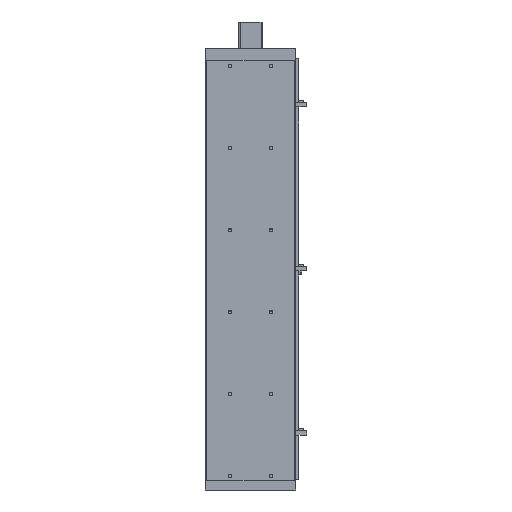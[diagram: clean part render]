
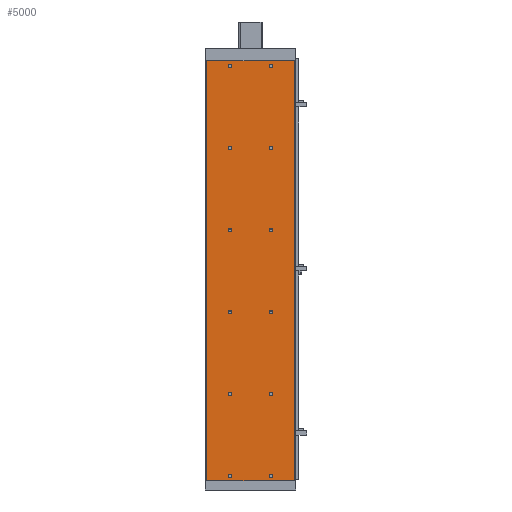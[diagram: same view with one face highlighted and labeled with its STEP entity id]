
A CAD part, front view. The second image highlights one B-rep face of the part: STEP entity #5000.
In plain terms, the highlighted planar face has unit normal (0, -1, 0).
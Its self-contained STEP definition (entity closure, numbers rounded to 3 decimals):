
#3162=CARTESIAN_POINT('',(-107.,0.0,1024.0));
#3163=VERTEX_POINT('',#3162);
#3170=CARTESIAN_POINT('',(107.,0.0,1024.0));
#3171=VERTEX_POINT('',#3170);
#3172=CARTESIAN_POINT('',(107.,0.0,1024.0));
#3173=DIRECTION('',(-1.0,0.0,0.0));
#3174=VECTOR('',#3173,214.);
#3175=LINE('',#3172,#3174);
#3176=EDGE_CURVE('',#3171,#3163,#3175,.T.);
#3506=CARTESIAN_POINT('',(107.,0.0,0.0));
#3507=VERTEX_POINT('',#3506);
#3514=CARTESIAN_POINT('',(-107.,0.0,0.0));
#3515=VERTEX_POINT('',#3514);
#3516=CARTESIAN_POINT('',(-107.,0.0,0.0));
#3517=DIRECTION('',(1.0,0.0,0.0));
#3518=VECTOR('',#3517,214.);
#3519=LINE('',#3516,#3518);
#3520=EDGE_CURVE('',#3515,#3507,#3519,.T.);
#3626=CARTESIAN_POINT('',(45.751,0.0,12.));
#3627=VERTEX_POINT('',#3626);
#3628=CARTESIAN_POINT('',(50.001,0.0,12.));
#3629=DIRECTION('',(0.0,1.0,0.0));
#3630=DIRECTION('',(1.0,0.0,0.0));
#3631=AXIS2_PLACEMENT_3D('',#3628,#3629,#3630);
#3632=CIRCLE('',#3631,4.25);
#3633=EDGE_CURVE('',#3627,#3627,#3632,.T.);
#3667=CARTESIAN_POINT('',(-54.249,0.0,12.));
#3668=VERTEX_POINT('',#3667);
#3669=CARTESIAN_POINT('',(-49.999,0.0,12.));
#3670=DIRECTION('',(0.0,1.0,0.0));
#3671=DIRECTION('',(1.0,0.0,0.0));
#3672=AXIS2_PLACEMENT_3D('',#3669,#3670,#3671);
#3673=CIRCLE('',#3672,4.25);
#3674=EDGE_CURVE('',#3668,#3668,#3673,.T.);
#3846=CARTESIAN_POINT('',(45.751,0.0,212.));
#3847=VERTEX_POINT('',#3846);
#3848=CARTESIAN_POINT('',(50.001,0.0,212.));
#3849=DIRECTION('',(0.0,1.0,0.0));
#3850=DIRECTION('',(1.0,0.0,0.0));
#3851=AXIS2_PLACEMENT_3D('',#3848,#3849,#3850);
#3852=CIRCLE('',#3851,4.25);
#3853=EDGE_CURVE('',#3847,#3847,#3852,.T.);
#3887=CARTESIAN_POINT('',(-54.249,0.0,212.));
#3888=VERTEX_POINT('',#3887);
#3889=CARTESIAN_POINT('',(-49.999,0.0,212.));
#3890=DIRECTION('',(0.0,1.0,0.0));
#3891=DIRECTION('',(1.0,0.0,0.0));
#3892=AXIS2_PLACEMENT_3D('',#3889,#3890,#3891);
#3893=CIRCLE('',#3892,4.25);
#3894=EDGE_CURVE('',#3888,#3888,#3893,.T.);
#3997=CARTESIAN_POINT('',(-54.249,0.0,812.));
#3998=VERTEX_POINT('',#3997);
#3999=CARTESIAN_POINT('',(-49.999,0.0,812.));
#4000=DIRECTION('',(0.0,1.0,0.0));
#4001=DIRECTION('',(1.0,0.0,0.0));
#4002=AXIS2_PLACEMENT_3D('',#3999,#4000,#4001);
#4003=CIRCLE('',#4002,4.25);
#4004=EDGE_CURVE('',#3998,#3998,#4003,.T.);
#4176=CARTESIAN_POINT('',(45.751,0.0,812.));
#4177=VERTEX_POINT('',#4176);
#4178=CARTESIAN_POINT('',(50.001,0.0,812.));
#4179=DIRECTION('',(0.0,1.0,0.0));
#4180=DIRECTION('',(1.0,0.0,0.0));
#4181=AXIS2_PLACEMENT_3D('',#4178,#4179,#4180);
#4182=CIRCLE('',#4181,4.25);
#4183=EDGE_CURVE('',#4177,#4177,#4182,.T.);
#4217=CARTESIAN_POINT('',(-54.249,0.0,1012.));
#4218=VERTEX_POINT('',#4217);
#4219=CARTESIAN_POINT('',(-49.999,0.0,1012.));
#4220=DIRECTION('',(0.0,1.0,0.0));
#4221=DIRECTION('',(1.0,0.0,0.0));
#4222=AXIS2_PLACEMENT_3D('',#4219,#4220,#4221);
#4223=CIRCLE('',#4222,4.25);
#4224=EDGE_CURVE('',#4218,#4218,#4223,.T.);
#4396=CARTESIAN_POINT('',(45.751,0.0,1012.));
#4397=VERTEX_POINT('',#4396);
#4398=CARTESIAN_POINT('',(50.001,0.0,1012.));
#4399=DIRECTION('',(0.0,1.0,0.0));
#4400=DIRECTION('',(1.0,0.0,0.0));
#4401=AXIS2_PLACEMENT_3D('',#4398,#4399,#4400);
#4402=CIRCLE('',#4401,4.25);
#4403=EDGE_CURVE('',#4397,#4397,#4402,.T.);
#4437=CARTESIAN_POINT('',(-54.249,0.0,412.));
#4438=VERTEX_POINT('',#4437);
#4439=CARTESIAN_POINT('',(-49.999,0.0,412.));
#4440=DIRECTION('',(0.0,1.0,0.0));
#4441=DIRECTION('',(1.0,0.0,0.0));
#4442=AXIS2_PLACEMENT_3D('',#4439,#4440,#4441);
#4443=CIRCLE('',#4442,4.25);
#4444=EDGE_CURVE('',#4438,#4438,#4443,.T.);
#4616=CARTESIAN_POINT('',(45.751,0.0,412.));
#4617=VERTEX_POINT('',#4616);
#4618=CARTESIAN_POINT('',(50.001,0.0,412.));
#4619=DIRECTION('',(0.0,1.0,0.0));
#4620=DIRECTION('',(1.0,0.0,0.0));
#4621=AXIS2_PLACEMENT_3D('',#4618,#4619,#4620);
#4622=CIRCLE('',#4621,4.25);
#4623=EDGE_CURVE('',#4617,#4617,#4622,.T.);
#4726=CARTESIAN_POINT('',(45.751,0.0,612.0));
#4727=VERTEX_POINT('',#4726);
#4728=CARTESIAN_POINT('',(50.001,0.0,612.0));
#4729=DIRECTION('',(0.0,1.0,0.0));
#4730=DIRECTION('',(1.0,0.0,0.0));
#4731=AXIS2_PLACEMENT_3D('',#4728,#4729,#4730);
#4732=CIRCLE('',#4731,4.25);
#4733=EDGE_CURVE('',#4727,#4727,#4732,.T.);
#4836=CARTESIAN_POINT('',(-54.249,0.0,612.0));
#4837=VERTEX_POINT('',#4836);
#4838=CARTESIAN_POINT('',(-49.999,0.0,612.0));
#4839=DIRECTION('',(0.0,1.0,0.0));
#4840=DIRECTION('',(1.0,0.0,0.0));
#4841=AXIS2_PLACEMENT_3D('',#4838,#4839,#4840);
#4842=CIRCLE('',#4841,4.25);
#4843=EDGE_CURVE('',#4837,#4837,#4842,.T.);
#4863=CARTESIAN_POINT('',(107.,0.0,0.0));
#4864=DIRECTION('',(0.0,0.0,1.0));
#4865=VECTOR('',#4864,1024.0);
#4866=LINE('',#4863,#4865);
#4867=EDGE_CURVE('',#3507,#3171,#4866,.T.);
#4885=CARTESIAN_POINT('',(-107.,0.0,0.0));
#4886=DIRECTION('',(0.0,0.0,1.0));
#4887=VECTOR('',#4886,1024.0);
#4888=LINE('',#4885,#4887);
#4889=EDGE_CURVE('',#3515,#3163,#4888,.T.);
#4953=CARTESIAN_POINT('',(107.,0.0,0.0));
#4954=DIRECTION('',(0.0,-1.0,0.0));
#4955=DIRECTION('',(0.0,0.0,-1.0));
#4956=AXIS2_PLACEMENT_3D('',#4953,#4954,#4955);
#4957=PLANE('',#4956);
#4958=ORIENTED_EDGE('',*,*,#3176,.T.);
#4959=ORIENTED_EDGE('',*,*,#4889,.F.);
#4960=ORIENTED_EDGE('',*,*,#3520,.T.);
#4961=ORIENTED_EDGE('',*,*,#4867,.T.);
#4962=EDGE_LOOP('',(#4958,#4959,#4960,#4961));
#4963=FACE_OUTER_BOUND('',#4962,.T.);
#4964=ORIENTED_EDGE('',*,*,#3633,.T.);
#4965=EDGE_LOOP('',(#4964));
#4966=FACE_BOUND('',#4965,.T.);
#4967=ORIENTED_EDGE('',*,*,#3674,.T.);
#4968=EDGE_LOOP('',(#4967));
#4969=FACE_BOUND('',#4968,.T.);
#4970=ORIENTED_EDGE('',*,*,#3853,.T.);
#4971=EDGE_LOOP('',(#4970));
#4972=FACE_BOUND('',#4971,.T.);
#4973=ORIENTED_EDGE('',*,*,#3894,.T.);
#4974=EDGE_LOOP('',(#4973));
#4975=FACE_BOUND('',#4974,.T.);
#4976=ORIENTED_EDGE('',*,*,#4004,.T.);
#4977=EDGE_LOOP('',(#4976));
#4978=FACE_BOUND('',#4977,.T.);
#4979=ORIENTED_EDGE('',*,*,#4183,.T.);
#4980=EDGE_LOOP('',(#4979));
#4981=FACE_BOUND('',#4980,.T.);
#4982=ORIENTED_EDGE('',*,*,#4224,.T.);
#4983=EDGE_LOOP('',(#4982));
#4984=FACE_BOUND('',#4983,.T.);
#4985=ORIENTED_EDGE('',*,*,#4403,.T.);
#4986=EDGE_LOOP('',(#4985));
#4987=FACE_BOUND('',#4986,.T.);
#4988=ORIENTED_EDGE('',*,*,#4444,.T.);
#4989=EDGE_LOOP('',(#4988));
#4990=FACE_BOUND('',#4989,.T.);
#4991=ORIENTED_EDGE('',*,*,#4623,.T.);
#4992=EDGE_LOOP('',(#4991));
#4993=FACE_BOUND('',#4992,.T.);
#4994=ORIENTED_EDGE('',*,*,#4733,.T.);
#4995=EDGE_LOOP('',(#4994));
#4996=FACE_BOUND('',#4995,.T.);
#4997=ORIENTED_EDGE('',*,*,#4843,.T.);
#4998=EDGE_LOOP('',(#4997));
#4999=FACE_BOUND('',#4998,.T.);
#5000=ADVANCED_FACE('',(#4963,#4966,#4969,#4972,#4975,#4978,#4981,#4984,#4987,#4990,#4993,#4996,#4999),#4957,.T.);
